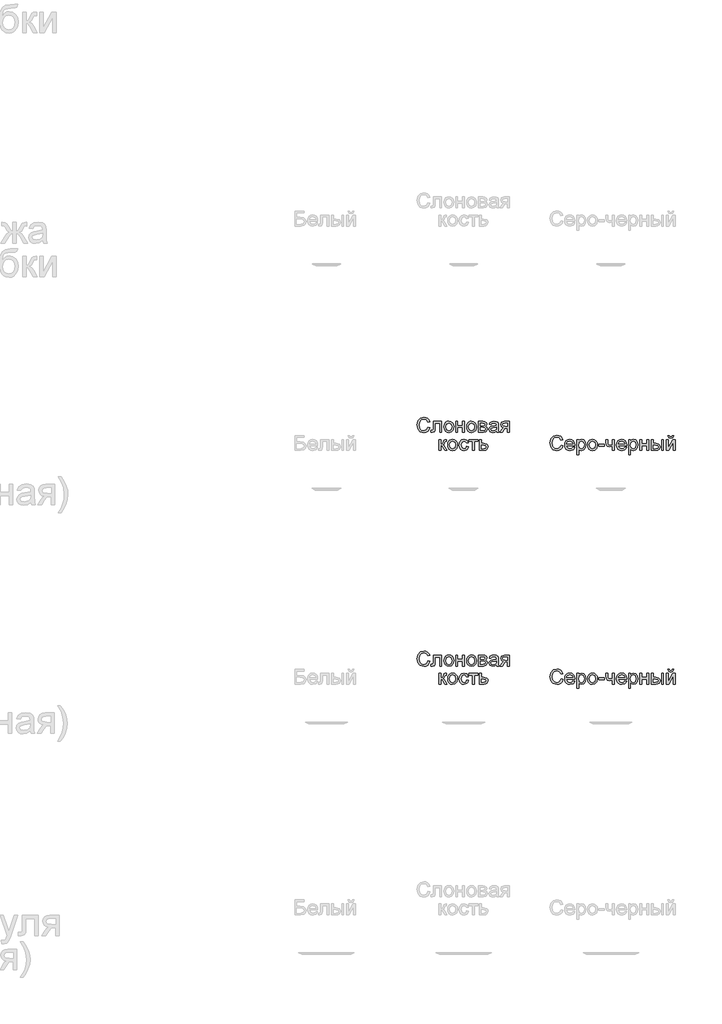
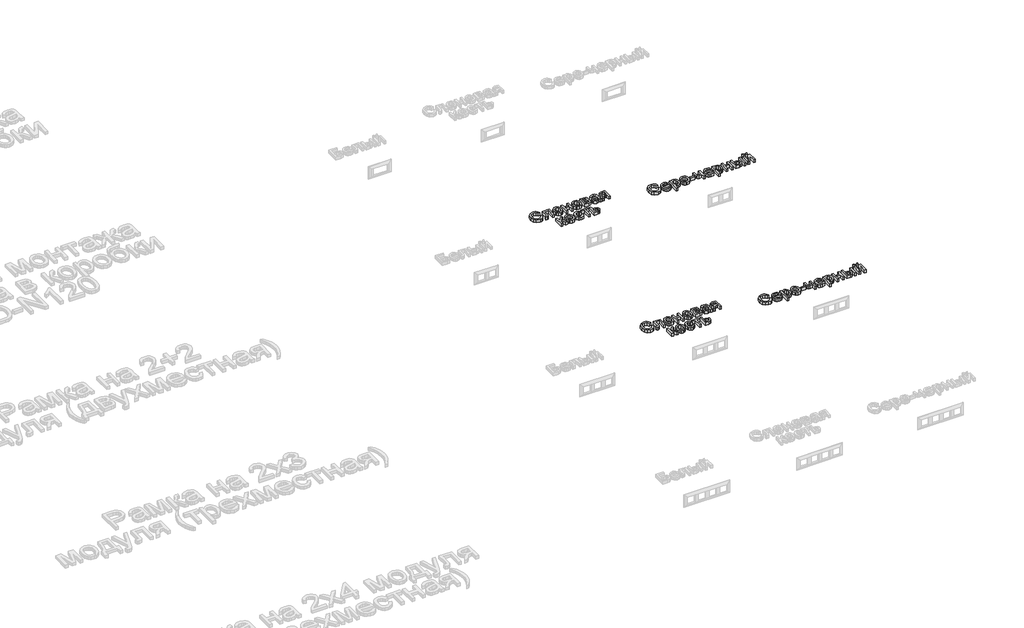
# One storey, part 44 of 47: 4 proxies.
"""IFC4 building model written with IfcOpenShell, lengths in millimetres."""

from ifc_helpers import new_model, si_unit, origin, origin_with_axes, place, context, project, spatial, polyline, outline, extrude, element, save

model = new_model("IFC4")

# Units and contexts
model_context = context("Model", 3, world=origin())
ifc_project = project(units=[si_unit("LENGTHUNIT", "METRE", prefix="MILLI")], contexts=[model_context])

# Site, building, storey
site = spatial("IfcSite", under=ifc_project)
building = spatial("IfcBuilding", under=site)
storey = spatial("IfcBuildingStorey", under=building, Name="Этаж 01", Elevation=0.0)

# Proxies
placement = place(None, origin())
element("IfcBuildingElementProxy", 1, Name="80 мм Arial", ObjectType="80 мм Arial", at=placement, inside=storey, context=model_context, shape_type="SweptSolid", body=[
    extrude(outline(polyline([(554.1498044, 1871.8606862), (564.1954354, 1869.2707969), (559.5601223, 1857.5647918), (552.2858689, 1849.0127617), (542.7307473, 1843.7814797), (531.252829, 1842.0377191), (510.3473215, 1847.3155995), (498.0845883, 1862.5998701), (493.8760183, 1884.0841786), (498.6339588, 1905.9216538), (512.162206, 1920.077753), (531.4686531, 1924.914175), (542.48304, 1923.3494502), (551.5893457, 1918.655276), (558.5030747, 1911.1210527), (562.9397315, 1901.0361809), (552.8941005, 1898.6424954), (544.6535438, 1910.9935203), (531.0762456, 1914.868544), (515.3603268, 1910.5716822), (506.482108, 1899.0349029), (503.9216493, 1884.103799), (506.9529969, 1866.7986299), (516.3903964, 1855.7425497), (530.25219, 1852.0833501), (545.6247523, 1857.0669249), (554.1498044, 1871.8606862)])), origin_with_axes(), (0.0, 0.0, 1.0), 20.0),
    extrude(outline(polyline([(581.7752897, 1902.3115052), (626.9806292, 1902.3115052), (626.9806292, 1843.3522841), (616.9349982, 1843.3522841), (616.9349982, 1892.2658742), (591.8209207, 1892.2658742), (591.8209207, 1864.1106388), (591.1440178, 1851.1219518), (587.4259571, 1845.6380576), (578.63603, 1843.293423), (570.4739548, 1843.8035527), (570.4739548, 1853.339054), (574.9670202, 1853.339054), (579.5091366, 1853.9570957), (581.3240211, 1855.919133), (581.7752897, 1864.6796296), (581.7752897, 1902.3115052)])), origin_with_axes(), (0.0, 0.0, 1.0), 20.0),
    extrude(outline(polyline([(639.537668, 1872.8024641), (641.7106243, 1887.0321396), (648.2294933, 1897.0336248), (656.2836564, 1901.933813), (665.9270698, 1903.5672091), (676.480378, 1901.5781937), (684.9097807, 1895.6111478), (690.4353683, 1886.1369601), (692.2772308, 1873.6265197), (689.0202489, 1855.7523599), (679.5337985, 1845.6380576), (665.9270698, 1842.0377191), (655.2462292, 1844.0193768), (646.8266366, 1849.9643498), (641.3599102, 1859.6371937), (639.537668, 1872.8024641)]), holes=[polyline([(649.583299, 1872.8220844), (654.2333274, 1857.2533184), (665.9270698, 1852.0833501), (677.5815714, 1857.282749), (682.2315998, 1873.1360104), (677.5521408, 1888.3516097), (665.9270698, 1893.521578), (654.2333274, 1888.3712301), (649.583299, 1872.8220844)])]), origin_with_axes(), (0.0, 0.0, 1.0), 20.0),
    extrude(outline(polyline([(703.5785657, 1902.3115052), (713.6241967, 1902.3115052), (713.6241967, 1879.7088354), (739.9939782, 1879.7088354), (739.9939782, 1902.3115052), (750.0396092, 1902.3115052), (750.0396092, 1843.293423), (739.9939782, 1843.293423), (739.9939782, 1869.6632044), (713.6241967, 1869.6632044), (713.6241967, 1843.293423), (703.5785657, 1843.293423), (703.5785657, 1902.3115052)])), origin_with_axes(), (0.0, 0.0, 1.0), 20.0),
    extrude(outline(polyline([(762.5966479, 1872.8024641), (764.7696043, 1887.0321396), (771.2884732, 1897.0336248), (779.3426364, 1901.933813), (788.9860497, 1903.5672091), (799.5393579, 1901.5781937), (807.9687607, 1895.6111478), (813.4943483, 1886.1369601), (815.3362108, 1873.6265197), (812.0792288, 1855.7523599), (802.5927785, 1845.6380576), (788.9860497, 1842.0377191), (778.3052091, 1844.0193768), (769.8856165, 1849.9643498), (764.4188901, 1859.6371937), (762.5966479, 1872.8024641)]), holes=[polyline([(772.642279, 1872.8220844), (777.2923074, 1857.2533184), (788.9860497, 1852.0833501), (800.6405513, 1857.282749), (805.2905798, 1873.1360104), (800.6111208, 1888.3516097), (788.9860497, 1893.521578), (777.2923074, 1888.3712301), (772.642279, 1872.8220844)])]), origin_with_axes(), (0.0, 0.0, 1.0), 20.0),
    extrude(outline(polyline([(826.6375457, 1902.3115052), (848.7693265, 1902.3115052), (860.9045272, 1900.9675096), (867.7324171, 1896.042796), (870.5871814, 1887.4588828), (868.8605885, 1880.4838401), (863.6611897, 1875.5100756), (870.410598, 1870.065422), (873.0985891, 1860.598592), (867.3498198, 1847.5510439), (852.163651, 1843.293423), (826.6375457, 1843.293423), (826.6375457, 1902.3115052)]), holes=[polyline([(836.6831767, 1879.7088354), (846.6110855, 1879.7088354), (854.8025912, 1880.2189651), (858.7855269, 1882.2594839), (860.5415503, 1885.948114), (857.4611518, 1890.8728277), (846.9250114, 1892.2658742), (836.6831767, 1892.2658742), (836.6831767, 1879.7088354)]), polyline([(836.6831767, 1853.339054), (849.004771, 1853.339054), (859.9333188, 1855.1539385), (863.0529581, 1861.4226477), (861.3361754, 1866.2590697), (856.8627304, 1869.0745932), (848.0237523, 1869.6632044), (836.6831767, 1869.6632044), (836.6831767, 1853.339054)])]), origin_with_axes(), (0.0, 0.0, 1.0), 20.0),
    extrude(outline(polyline([(923.3267442, 1850.8276462), (913.585229, 1844.0193768), (902.8234543, 1842.0377191), (888.2357069, 1846.8054698), (883.1442201, 1858.9897214), (885.0670167, 1866.9359725), (890.1192628, 1872.7043622), (897.1531665, 1876.0005849), (905.8449918, 1877.5113536), (923.2678831, 1880.9645393), (923.3267442, 1883.2012618), (920.5602716, 1890.6177628), (909.4551404, 1893.521578), (899.2917872, 1891.5889713), (894.445555, 1884.7316509), (884.399924, 1885.9873548), (888.7458366, 1895.7975413), (897.496523, 1901.5463106), (910.750085, 1903.5672091), (922.9245265, 1901.7817551), (929.8014673, 1897.2984999), (932.8818659, 1890.4804202), (933.3723752, 1881.6904931), (933.3723752, 1869.1923154), (933.8825049, 1851.7399936), (935.883783, 1843.293423), (925.8381519, 1843.293423), (923.3267442, 1850.8276462)]), holes=[polyline([(923.3267442, 1870.9189083), (907.120316, 1867.8385097), (898.4775417, 1866.2100187), (894.5632773, 1863.5612684), (893.1898511, 1859.6960549), (896.181958, 1854.2612115), (904.962075, 1852.0833501), (915.1254282, 1854.4868458), (921.6786328, 1860.3042864), (923.2678831, 1868.0739542), (923.3267442, 1870.9189083)])]), origin_with_axes(), (0.0, 0.0, 1.0), 20.0),
    extrude(outline(polyline([(992.3904574, 1902.3115052), (992.3904574, 1843.293423), (982.3448264, 1843.293423), (982.3448264, 1865.8960928), (976.8707423, 1865.8960928), (969.4150005, 1864.6207685), (962.4105274, 1856.0466655), (954.4054151, 1843.293423), (942.7901543, 1843.293423), (952.875026, 1859.4213696), (961.4295087, 1867.7796486), (949.7357663, 1873.8815846), (945.929414, 1885.261401), (951.1288128, 1897.5829953), (966.177639, 1902.3115052), (992.3904574, 1902.3115052)]), holes=[polyline([(982.3448264, 1892.2658742), (969.1010746, 1892.2658742), (958.3785407, 1889.94086), (955.975045, 1884.4962064), (959.5165223, 1878.0116731), (972.0637509, 1875.9417238), (982.3448264, 1875.9417238), (982.3448264, 1892.2658742)])]), origin_with_axes(), (0.0, 0.0, 1.0), 20.0),
    extrude(outline(polyline([(613.7957385, 1804.7316509), (623.8413695, 1804.7316509), (623.8413695, 1779.6175734), (630.5711575, 1781.4226477), (636.0844823, 1791.9391677), (640.6658395, 1801.0135902), (644.7076363, 1803.9664564), (652.055466, 1804.7316509), (653.9782626, 1804.7316509), (653.9782626, 1794.6271588), (651.2706511, 1794.6860199), (646.3655578, 1793.6265197), (642.9123722, 1787.014454), (638.8607651, 1779.862828), (633.1806671, 1776.3605914), (639.5180476, 1772.4512321), (645.7377059, 1764.2155805), (656.4896703, 1745.7135687), (645.0706132, 1745.7135687), (634.5344729, 1763.823173), (629.2369721, 1771.4849287), (623.8413695, 1773.339054), (623.8413695, 1745.7135687), (613.7957385, 1745.7135687), (613.7957385, 1804.7316509)])), origin_with_axes(), (0.0, 0.0, 1.0), 20.0),
    extrude(outline(polyline([(660.256782, 1775.2226098), (662.4297383, 1789.4522854), (668.9486073, 1799.4537705), (677.0027704, 1804.3539587), (686.6461838, 1805.9873548), (697.1994919, 1803.9983395), (705.6288947, 1798.0312935), (711.1544823, 1788.5571059), (712.9963448, 1776.0466655), (709.7393629, 1758.1725056), (700.2529125, 1748.0582033), (686.6461838, 1744.4578648), (675.9653432, 1746.4395225), (667.5457506, 1752.3844955), (662.0790241, 1762.0573395), (660.256782, 1775.2226098)]), holes=[polyline([(670.302413, 1775.2422302), (674.9524414, 1759.6734641), (686.6461838, 1754.5034958), (698.3006854, 1759.7028947), (702.9507138, 1775.5561561), (698.2712548, 1790.7717555), (686.6461838, 1795.9417238), (674.9524414, 1790.7913758), (670.302413, 1775.2422302)])]), origin_with_axes(), (0.0, 0.0, 1.0), 20.0),
    extrude(outline(polyline([(761.968796, 1767.0605346), (772.014427, 1765.8048307), (769.2136188, 1756.8702033), (763.9504537, 1750.1183424), (748.0187107, 1744.4578648), (737.3329651, 1746.4321649), (728.9771387, 1752.355065), (723.5839886, 1761.9665952), (721.7862719, 1775.0067857), (724.8568603, 1791.693913), (734.2157783, 1802.4164469), (747.8813681, 1805.9873548), (763.1558286, 1801.0822615), (770.7587231, 1787.1517966), (760.7130921, 1785.8960928), (756.0532535, 1793.4205058), (747.9598496, 1795.9417238), (736.3151582, 1790.9777694), (731.831903, 1775.2814709), (736.2170563, 1759.4380197), (747.6851644, 1754.5034958), (757.1519944, 1757.5838944), (761.968796, 1767.0605346)])), origin_with_axes(), (0.0, 0.0, 1.0), 20.0),
    extrude(outline(polyline([(775.7815387, 1804.7316509), (823.498286, 1804.7316509), (823.498286, 1794.6860199), (804.6627278, 1794.6860199), (804.6627278, 1745.7135687), (794.6170968, 1745.7135687), (794.6170968, 1794.6860199), (775.7815387, 1794.6860199), (775.7815387, 1804.7316509)])), origin_with_axes(), (0.0, 0.0, 1.0), 20.0),
    extrude(outline(polyline([(832.2882131, 1804.7316509), (842.3338441, 1804.7316509), (842.3338441, 1783.384685), (853.9098642, 1783.384685), (871.3719963, 1778.3520593), (875.9631636, 1772.365393), (877.4935527, 1764.4706454), (872.2843436, 1751.2170833), (865.5128624, 1747.0894474), (855.6168367, 1745.7135687), (832.2882131, 1745.7135687), (832.2882131, 1804.7316509)]), holes=[polyline([(842.3338441, 1755.7591997), (851.7123825, 1755.7591997), (863.8279628, 1757.8683898), (867.4479217, 1764.451025), (864.7697407, 1770.6314425), (852.9092252, 1773.339054), (842.3338441, 1773.339054), (842.3338441, 1755.7591997)])]), origin_with_axes(), (0.0, 0.0, 1.0), 20.0),
])
element("IfcBuildingElementProxy", 2, Name="80 мм Arial", ObjectType="80 мм Arial", at=placement, inside=storey, context=model_context, shape_type="SweptSolid", body=[
    extrude(outline(polyline([(1272.5444141, 1774.2808319), (1282.5900451, 1771.6909426), (1277.954732, 1759.9849376), (1270.6804787, 1751.4329074), (1261.125357, 1746.2016255), (1249.6474387, 1744.4578648), (1228.7419312, 1749.7357452), (1216.4791981, 1765.0200158), (1212.270628, 1786.5043243), (1217.0285685, 1808.3417996), (1230.5568157, 1822.4978987), (1249.8632628, 1827.3343207), (1260.8776498, 1825.7695959), (1269.9839554, 1821.0754217), (1276.8976844, 1813.5411984), (1281.3343413, 1803.4563267), (1271.2887102, 1801.0626411), (1263.0481536, 1813.413666), (1249.4708554, 1817.2886897), (1233.7549366, 1812.991828), (1224.8767177, 1801.4550486), (1222.3162591, 1786.5239447), (1225.3476067, 1769.2187756), (1234.7850061, 1758.1626954), (1248.6467997, 1754.5034958), (1264.019362, 1759.4870706), (1272.5444141, 1774.2808319)])), origin_with_axes(), (0.0, 0.0, 1.0), 20.0),
    extrude(outline(polyline([(1336.4675896, 1763.293423), (1346.3170169, 1762.0377191), (1337.1052517, 1749.0686525), (1319.9472355, 1744.4578648), (1308.1602964, 1746.4468801), (1299.0907789, 1752.4139261), (1293.3076739, 1761.9715003), (1291.3799723, 1774.7321005), (1293.3272943, 1787.9218963), (1299.1692604, 1797.7860388), (1308.1161505, 1803.9370258), (1319.3782447, 1805.9873548), (1330.2896246, 1803.9419309), (1339.0084279, 1797.8056592), (1344.7253141, 1787.961137), (1346.6309429, 1774.7909616), (1346.5720817, 1772.0833501), (1301.4256033, 1772.0833501), (1307.2038032, 1759.035802), (1320.1434392, 1754.5034958), (1329.9928665, 1756.6028758), (1336.4675896, 1763.293423)]), holes=[polyline([(1301.4256033, 1782.1289811), (1336.5853118, 1782.1289811), (1332.5631354, 1791.2328342), (1319.3390039, 1795.9417238), (1306.9683587, 1792.1844223), (1301.4256033, 1782.1289811)])]), origin_with_axes(), (0.0, 0.0, 1.0), 20.0),
    extrude(outline(polyline([(1356.6765739, 1723.1108989), (1356.6765739, 1804.7316509), (1366.7222049, 1804.7316509), (1366.7222049, 1794.8822236), (1373.667817, 1803.211072), (1383.0463553, 1805.9873548), (1395.7799774, 1802.1025209), (1404.0990156, 1791.1543527), (1406.904729, 1775.6738784), (1403.7360387, 1759.3987789), (1394.5340837, 1748.3132681), (1381.8298922, 1744.4578648), (1373.089016, 1747.0379439), (1366.7222049, 1753.5617179), (1366.7222049, 1723.1108989), (1356.6765739, 1723.1108989)]), holes=[polyline([(1366.7222049, 1774.7517208), (1371.0681175, 1759.4478298), (1381.6140681, 1754.5034958), (1392.3758427, 1759.6244132), (1396.8590979, 1775.497295), (1392.4837547, 1790.8404268), (1382.0260959, 1795.9417238), (1371.3624231, 1790.5166906), (1366.7222049, 1774.7517208)])]), origin_with_axes(), (0.0, 0.0, 1.0), 20.0),
    extrude(outline(polyline([(1415.6946561, 1775.2226098), (1417.8676124, 1789.4522854), (1424.3864814, 1799.4537705), (1432.4406445, 1804.3539587), (1442.0840579, 1805.9873548), (1452.637366, 1803.9983395), (1461.0667688, 1798.0312935), (1466.5923564, 1788.5571059), (1468.4342189, 1776.0466655), (1465.177237, 1758.1725056), (1455.6907866, 1748.0582033), (1442.0840579, 1744.4578648), (1431.4032173, 1746.4395225), (1422.9836247, 1752.3844955), (1417.5168982, 1762.0573395), (1415.6946561, 1775.2226098)]), holes=[polyline([(1425.7402871, 1775.2422302), (1430.3903155, 1759.6734641), (1442.0840579, 1754.5034958), (1453.7385595, 1759.7028947), (1458.3885879, 1775.5561561), (1453.7091289, 1790.7717555), (1442.0840579, 1795.9417238), (1430.3903155, 1790.7913758), (1425.7402871, 1775.2422302)])]), origin_with_axes(), (0.0, 0.0, 1.0), 20.0),
    extrude(outline(polyline([(1474.7127383, 1769.5719424), (1474.7127383, 1779.6175734), (1506.1053352, 1779.6175734), (1506.1053352, 1769.5719424), (1474.7127383, 1769.5719424)])), origin_with_axes(), (0.0, 0.0, 1.0), 20.0),
    extrude(outline(polyline([(1513.6395585, 1804.7316509), (1523.6851895, 1804.7316509), (1523.6851895, 1793.4106956), (1524.499435, 1782.7960738), (1528.4136994, 1777.0473045), (1536.1833671, 1774.5947579), (1550.0549709, 1777.6359157), (1550.0549709, 1804.7316509), (1560.1006019, 1804.7316509), (1560.1006019, 1745.7135687), (1550.0549709, 1745.7135687), (1550.0549709, 1768.0023125), (1533.495376, 1764.5491268), (1522.1057495, 1768.1494653), (1515.4053921, 1776.968823), (1513.6395585, 1788.4467413), (1513.6395585, 1804.7316509)])), origin_with_axes(), (0.0, 0.0, 1.0), 20.0),
    extrude(outline(polyline([(1616.4895541, 1763.293423), (1626.3389814, 1762.0377191), (1617.1272163, 1749.0686525), (1599.9692, 1744.4578648), (1588.1822609, 1746.4468801), (1579.1127434, 1752.4139261), (1573.3296385, 1761.9715003), (1571.4019368, 1774.7321005), (1573.3492588, 1787.9218963), (1579.1912249, 1797.7860388), (1588.1381151, 1803.9370258), (1599.4002092, 1805.9873548), (1610.3115892, 1803.9419309), (1619.0303925, 1797.8056592), (1624.7472787, 1787.961137), (1626.6529074, 1774.7909616), (1626.5940463, 1772.0833501), (1581.4475678, 1772.0833501), (1587.2257677, 1759.035802), (1600.1654038, 1754.5034958), (1610.014831, 1756.6028758), (1616.4895541, 1763.293423)]), holes=[polyline([(1581.4475678, 1782.1289811), (1616.6072764, 1782.1289811), (1612.5850999, 1791.2328342), (1599.3609685, 1795.9417238), (1586.9903232, 1792.1844223), (1581.4475678, 1782.1289811)])]), origin_with_axes(), (0.0, 0.0, 1.0), 20.0),
    extrude(outline(polyline([(1636.6985384, 1723.1108989), (1636.6985384, 1804.7316509), (1646.7441694, 1804.7316509), (1646.7441694, 1794.8822236), (1653.6897815, 1803.211072), (1663.0683198, 1805.9873548), (1675.801942, 1802.1025209), (1684.1209801, 1791.1543527), (1686.9266935, 1775.6738784), (1683.7580032, 1759.3987789), (1674.5560483, 1748.3132681), (1661.8518567, 1744.4578648), (1653.1109805, 1747.0379439), (1646.7441694, 1753.5617179), (1646.7441694, 1723.1108989), (1636.6985384, 1723.1108989)]), holes=[polyline([(1646.7441694, 1774.7517208), (1651.0900821, 1759.4478298), (1661.6360326, 1754.5034958), (1672.3978072, 1759.6244132), (1676.8810625, 1775.497295), (1672.5057193, 1790.8404268), (1662.0480604, 1795.9417238), (1651.3843877, 1790.5166906), (1646.7441694, 1774.7517208)])]), origin_with_axes(), (0.0, 0.0, 1.0), 20.0),
    extrude(outline(polyline([(1698.2280284, 1804.7316509), (1708.2736594, 1804.7316509), (1708.2736594, 1782.1289811), (1734.6434408, 1782.1289811), (1734.6434408, 1804.7316509), (1744.6890718, 1804.7316509), (1744.6890718, 1745.7135687), (1734.6434408, 1745.7135687), (1734.6434408, 1772.0833501), (1708.2736594, 1772.0833501), (1708.2736594, 1745.7135687), (1698.2280284, 1745.7135687), (1698.2280284, 1804.7316509)])), origin_with_axes(), (0.0, 0.0, 1.0), 20.0),
    extrude(outline(polyline([(1815.0084889, 1804.7316509), (1825.0541199, 1804.7316509), (1825.0541199, 1745.7135687), (1815.0084889, 1745.7135687), (1815.0084889, 1804.7316509)])), origin_with_axes(), (0.0, 0.0, 1.0), 20.0),
    extrude(outline(polyline([(1759.7575184, 1804.7316509), (1769.8031494, 1804.7316509), (1769.8031494, 1783.384685), (1782.2228455, 1783.384685), (1800.9112509, 1778.3520593), (1805.833512, 1772.365393), (1807.4742657, 1764.4706454), (1801.970751, 1751.2170833), (1794.8215776, 1747.0894474), (1784.3810866, 1745.7135687), (1759.7575184, 1745.7135687), (1759.7575184, 1804.7316509)]), holes=[polyline([(1769.8031494, 1755.7591997), (1780.1234656, 1755.7591997), (1793.4456989, 1757.8683898), (1797.4286347, 1764.451025), (1794.4757685, 1770.6314425), (1781.4380306, 1773.339054), (1769.8031494, 1773.339054), (1769.8031494, 1755.7591997)])]), origin_with_axes(), (0.0, 0.0, 1.0), 20.0),
    extrude(outline(polyline([(1840.1225665, 1804.7316509), (1850.1681975, 1804.7316509), (1850.1681975, 1759.7225151), (1874.8506268, 1804.7316509), (1887.8393138, 1804.7316509), (1887.8393138, 1745.7135687), (1877.7936828, 1745.7135687), (1877.7936828, 1790.4480193), (1853.2682164, 1745.7135687), (1840.1225665, 1745.7135687), (1840.1225665, 1804.7316509)])), origin_with_axes(), (0.0, 0.0, 1.0), 20.0),
    extrude(outline(polyline([(1872.7708673, 1826.0786168), (1880.3050905, 1826.0786168), (1875.4294278, 1814.9048143), (1864.6087921, 1811.0101703), (1852.8954293, 1814.8753838), (1847.6567897, 1826.0786168), (1855.191013, 1826.0786168), (1858.0163467, 1820.4181392), (1863.7062549, 1818.5443936), (1869.9455335, 1820.3592781), (1872.7708673, 1826.0786168)])), origin_with_axes(), (0.0, 0.0, 1.0), 20.0),
])
element("IfcBuildingElementProxy", 3, Name="80 мм Arial", ObjectType="80 мм Arial", at=placement, inside=storey, context=model_context, shape_type="SweptSolid", body=[
    extrude(outline(polyline([(554.1498044, 610.5439649), (564.1954354, 607.9540756), (559.5601223, 596.2480705), (552.2858689, 587.6960404), (542.7307473, 582.4647584), (531.252829, 580.7209978), (510.3473215, 585.9988781), (498.0845883, 601.2831488), (493.8760183, 622.7674573), (498.6339588, 644.6049325), (512.162206, 658.7610317), (531.4686531, 663.5974537), (542.48304, 662.0327289), (551.5893457, 657.3385547), (558.5030747, 649.8043314), (562.9397315, 639.7194596), (552.8941005, 637.3257741), (544.6535438, 649.676799), (531.0762456, 653.5518227), (515.3603268, 649.2549609), (506.482108, 637.7181816), (503.9216493, 622.7870777), (506.9529969, 605.4819086), (516.3903964, 594.4258284), (530.25219, 590.7666288), (545.6247523, 595.7502036), (554.1498044, 610.5439649)])), origin_with_axes(), (0.0, 0.0, 1.0), 20.0),
    extrude(outline(polyline([(581.7752897, 640.9947839), (626.9806292, 640.9947839), (626.9806292, 582.0355628), (616.9349982, 582.0355628), (616.9349982, 630.9491529), (591.8209207, 630.9491529), (591.8209207, 602.7939175), (591.1440178, 589.8052305), (587.4259571, 584.3213363), (578.63603, 581.9767017), (570.4739548, 582.4868314), (570.4739548, 592.0223327), (574.9670202, 592.0223327), (579.5091366, 592.6403744), (581.3240211, 594.6024117), (581.7752897, 603.3629083), (581.7752897, 640.9947839)])), origin_with_axes(), (0.0, 0.0, 1.0), 20.0),
    extrude(outline(polyline([(639.537668, 611.4857428), (641.7106243, 625.7154183), (648.2294933, 635.7169035), (656.2836564, 640.6170917), (665.9270698, 642.2504878), (676.480378, 640.2614724), (684.9097807, 634.2944265), (690.4353683, 624.8202388), (692.2772308, 612.3097984), (689.0202489, 594.4356386), (679.5337985, 584.3213363), (665.9270698, 580.7209978), (655.2462292, 582.7026555), (646.8266366, 588.6476285), (641.3599102, 598.3204724), (639.537668, 611.4857428)]), holes=[polyline([(649.583299, 611.5053631), (654.2333274, 595.9365971), (665.9270698, 590.7666288), (677.5815714, 595.9660277), (682.2315998, 611.8192891), (677.5521408, 627.0348884), (665.9270698, 632.2048567), (654.2333274, 627.0545088), (649.583299, 611.5053631)])]), origin_with_axes(), (0.0, 0.0, 1.0), 20.0),
    extrude(outline(polyline([(703.5785657, 640.9947839), (713.6241967, 640.9947839), (713.6241967, 618.3921141), (739.9939782, 618.3921141), (739.9939782, 640.9947839), (750.0396092, 640.9947839), (750.0396092, 581.9767017), (739.9939782, 581.9767017), (739.9939782, 608.3464831), (713.6241967, 608.3464831), (713.6241967, 581.9767017), (703.5785657, 581.9767017), (703.5785657, 640.9947839)])), origin_with_axes(), (0.0, 0.0, 1.0), 20.0),
    extrude(outline(polyline([(762.5966479, 611.4857428), (764.7696043, 625.7154183), (771.2884732, 635.7169035), (779.3426364, 640.6170917), (788.9860497, 642.2504878), (799.5393579, 640.2614724), (807.9687607, 634.2944265), (813.4943483, 624.8202388), (815.3362108, 612.3097984), (812.0792288, 594.4356386), (802.5927785, 584.3213363), (788.9860497, 580.7209978), (778.3052091, 582.7026555), (769.8856165, 588.6476285), (764.4188901, 598.3204724), (762.5966479, 611.4857428)]), holes=[polyline([(772.642279, 611.5053631), (777.2923074, 595.9365971), (788.9860497, 590.7666288), (800.6405513, 595.9660277), (805.2905798, 611.8192891), (800.6111208, 627.0348884), (788.9860497, 632.2048567), (777.2923074, 627.0545088), (772.642279, 611.5053631)])]), origin_with_axes(), (0.0, 0.0, 1.0), 20.0),
    extrude(outline(polyline([(826.6375457, 640.9947839), (848.7693265, 640.9947839), (860.9045272, 639.6507883), (867.7324171, 634.7260747), (870.5871814, 626.1421615), (868.8605885, 619.1671188), (863.6611897, 614.1933543), (870.410598, 608.7487007), (873.0985891, 599.2818707), (867.3498198, 586.2343226), (852.163651, 581.9767017), (826.6375457, 581.9767017), (826.6375457, 640.9947839)]), holes=[polyline([(836.6831767, 618.3921141), (846.6110855, 618.3921141), (854.8025912, 618.9022438), (858.7855269, 620.9427626), (860.5415503, 624.6313927), (857.4611518, 629.5561064), (846.9250114, 630.9491529), (836.6831767, 630.9491529), (836.6831767, 618.3921141)]), polyline([(836.6831767, 592.0223327), (849.004771, 592.0223327), (859.9333188, 593.8372172), (863.0529581, 600.1059264), (861.3361754, 604.9423484), (856.8627304, 607.7578719), (848.0237523, 608.3464831), (836.6831767, 608.3464831), (836.6831767, 592.0223327)])]), origin_with_axes(), (0.0, 0.0, 1.0), 20.0),
    extrude(outline(polyline([(923.3267442, 589.5109249), (913.585229, 582.7026555), (902.8234543, 580.7209978), (888.2357069, 585.4887484), (883.1442201, 597.6730001), (885.0670167, 605.6192512), (890.1192628, 611.3876409), (897.1531665, 614.6838636), (905.8449918, 616.1946323), (923.2678831, 619.647818), (923.3267442, 621.8845405), (920.5602716, 629.3010415), (909.4551404, 632.2048567), (899.2917872, 630.27225), (894.445555, 623.4149296), (884.399924, 624.6706335), (888.7458366, 634.48082), (897.496523, 640.2295893), (910.750085, 642.2504878), (922.9245265, 640.4650338), (929.8014673, 635.9817786), (932.8818659, 629.1636989), (933.3723752, 620.3737718), (933.3723752, 607.8755941), (933.8825049, 590.4232723), (935.883783, 581.9767017), (925.8381519, 581.9767017), (923.3267442, 589.5109249)]), holes=[polyline([(923.3267442, 609.602187), (907.120316, 606.5217884), (898.4775417, 604.8932974), (894.5632773, 602.2445471), (893.1898511, 598.3793336), (896.181958, 592.9444902), (904.962075, 590.7666288), (915.1254282, 593.1701245), (921.6786328, 598.9875651), (923.2678831, 606.7572329), (923.3267442, 609.602187)])]), origin_with_axes(), (0.0, 0.0, 1.0), 20.0),
    extrude(outline(polyline([(992.3904574, 640.9947839), (992.3904574, 581.9767017), (982.3448264, 581.9767017), (982.3448264, 604.5793715), (976.8707423, 604.5793715), (969.4150005, 603.3040472), (962.4105274, 594.7299442), (954.4054151, 581.9767017), (942.7901543, 581.9767017), (952.875026, 598.1046483), (961.4295087, 606.4629273), (949.7357663, 612.5648633), (945.929414, 623.9446797), (951.1288128, 636.266274), (966.177639, 640.9947839), (992.3904574, 640.9947839)]), holes=[polyline([(982.3448264, 630.9491529), (969.1010746, 630.9491529), (958.3785407, 628.6241387), (955.975045, 623.1794851), (959.5165223, 616.6949518), (972.0637509, 614.6250025), (982.3448264, 614.6250025), (982.3448264, 630.9491529)])]), origin_with_axes(), (0.0, 0.0, 1.0), 20.0),
    extrude(outline(polyline([(613.7957385, 543.4149296), (623.8413695, 543.4149296), (623.8413695, 518.3008521), (630.5711575, 520.1059264), (636.0844823, 530.6224464), (640.6658395, 539.6968689), (644.7076363, 542.6497351), (652.055466, 543.4149296), (653.9782626, 543.4149296), (653.9782626, 533.3104375), (651.2706511, 533.3692986), (646.3655578, 532.3097984), (642.9123722, 525.6977327), (638.8607651, 518.5461067), (633.1806671, 515.0438701), (639.5180476, 511.1345108), (645.7377059, 502.8988592), (656.4896703, 484.3968474), (645.0706132, 484.3968474), (634.5344729, 502.5064517), (629.2369721, 510.1682074), (623.8413695, 512.0223327), (623.8413695, 484.3968474), (613.7957385, 484.3968474), (613.7957385, 543.4149296)])), origin_with_axes(), (0.0, 0.0, 1.0), 20.0),
    extrude(outline(polyline([(660.256782, 513.9058885), (662.4297383, 528.1355641), (668.9486073, 538.1370492), (677.0027704, 543.0372374), (686.6461838, 544.6706335), (697.1994919, 542.6816182), (705.6288947, 536.7145722), (711.1544823, 527.2403846), (712.9963448, 514.7299442), (709.7393629, 496.8557843), (700.2529125, 486.741482), (686.6461838, 483.1411435), (675.9653432, 485.1228012), (667.5457506, 491.0677742), (662.0790241, 500.7406182), (660.256782, 513.9058885)]), holes=[polyline([(670.302413, 513.9255089), (674.9524414, 498.3567428), (686.6461838, 493.1867745), (698.3006854, 498.3861734), (702.9507138, 514.2394348), (698.2712548, 529.4550342), (686.6461838, 534.6250025), (674.9524414, 529.4746545), (670.302413, 513.9255089)])]), origin_with_axes(), (0.0, 0.0, 1.0), 20.0),
    extrude(outline(polyline([(761.968796, 505.7438133), (772.014427, 504.4881094), (769.2136188, 495.553482), (763.9504537, 488.8016211), (748.0187107, 483.1411435), (737.3329651, 485.1154436), (728.9771387, 491.0383437), (723.5839886, 500.6498739), (721.7862719, 513.6900644), (724.8568603, 530.3771917), (734.2157783, 541.0997256), (747.8813681, 544.6706335), (763.1558286, 539.7655402), (770.7587231, 525.8350753), (760.7130921, 524.5793715), (756.0532535, 532.1037845), (747.9598496, 534.6250025), (736.3151582, 529.6610481), (731.831903, 513.9647496), (736.2170563, 498.1212984), (747.6851644, 493.1867745), (757.1519944, 496.2671731), (761.968796, 505.7438133)])), origin_with_axes(), (0.0, 0.0, 1.0), 20.0),
    extrude(outline(polyline([(775.7815387, 543.4149296), (823.498286, 543.4149296), (823.498286, 533.3692986), (804.6627278, 533.3692986), (804.6627278, 484.3968474), (794.6170968, 484.3968474), (794.6170968, 533.3692986), (775.7815387, 533.3692986), (775.7815387, 543.4149296)])), origin_with_axes(), (0.0, 0.0, 1.0), 20.0),
    extrude(outline(polyline([(832.2882131, 543.4149296), (842.3338441, 543.4149296), (842.3338441, 522.0679637), (853.9098642, 522.0679637), (871.3719963, 517.035338), (875.9631636, 511.0486717), (877.4935527, 503.1539241), (872.2843436, 489.900362), (865.5128624, 485.7727261), (855.6168367, 484.3968474), (832.2882131, 484.3968474), (832.2882131, 543.4149296)]), holes=[polyline([(842.3338441, 494.4424784), (851.7123825, 494.4424784), (863.8279628, 496.5516685), (867.4479217, 503.1343037), (864.7697407, 509.3147212), (852.9092252, 512.0223327), (842.3338441, 512.0223327), (842.3338441, 494.4424784)])]), origin_with_axes(), (0.0, 0.0, 1.0), 20.0),
])
element("IfcBuildingElementProxy", 4, Name="80 мм Arial", ObjectType="80 мм Arial", at=placement, inside=storey, context=model_context, shape_type="SweptSolid", body=[
    extrude(outline(polyline([(1272.5444141, 512.9641106), (1282.5900451, 510.3742213), (1277.954732, 498.6682163), (1270.6804787, 490.1161861), (1261.125357, 484.8849042), (1249.6474387, 483.1411435), (1228.7419312, 488.4190239), (1216.4791981, 503.7032945), (1212.270628, 525.187603), (1217.0285685, 547.0250783), (1230.5568157, 561.1811774), (1249.8632628, 566.0175994), (1260.8776498, 564.4528746), (1269.9839554, 559.7587004), (1276.8976844, 552.2244771), (1281.3343413, 542.1396054), (1271.2887102, 539.7459198), (1263.0481536, 552.0969447), (1249.4708554, 555.9719684), (1233.7549366, 551.6751067), (1224.8767177, 540.1383273), (1222.3162591, 525.2072234), (1225.3476067, 507.9020543), (1234.7850061, 496.8459741), (1248.6467997, 493.1867745), (1264.019362, 498.1703493), (1272.5444141, 512.9641106)])), origin_with_axes(), (0.0, 0.0, 1.0), 20.0),
    extrude(outline(polyline([(1336.4675896, 501.9767017), (1346.3170169, 500.7209978), (1337.1052517, 487.7519312), (1319.9472355, 483.1411435), (1308.1602964, 485.1301588), (1299.0907789, 491.0972048), (1293.3076739, 500.654779), (1291.3799723, 513.4153792), (1293.3272943, 526.605175), (1299.1692604, 536.4693175), (1308.1161505, 542.6203045), (1319.3782447, 544.6706335), (1330.2896246, 542.6252096), (1339.0084279, 536.4889379), (1344.7253141, 526.6444157), (1346.6309429, 513.4742403), (1346.5720817, 510.7666288), (1301.4256033, 510.7666288), (1307.2038032, 497.7190807), (1320.1434392, 493.1867745), (1329.9928665, 495.2861544), (1336.4675896, 501.9767017)]), holes=[polyline([(1301.4256033, 520.8122598), (1336.5853118, 520.8122598), (1332.5631354, 529.9161129), (1319.3390039, 534.6250025), (1306.9683587, 530.867701), (1301.4256033, 520.8122598)])]), origin_with_axes(), (0.0, 0.0, 1.0), 20.0),
    extrude(outline(polyline([(1356.6765739, 461.7941776), (1356.6765739, 543.4149296), (1366.7222049, 543.4149296), (1366.7222049, 533.5655023), (1373.667817, 541.8943507), (1383.0463553, 544.6706335), (1395.7799774, 540.7857996), (1404.0990156, 529.8376314), (1406.904729, 514.3571571), (1403.7360387, 498.0820576), (1394.5340837, 486.9965468), (1381.8298922, 483.1411435), (1373.089016, 485.7212226), (1366.7222049, 492.2449966), (1366.7222049, 461.7941776), (1356.6765739, 461.7941776)]), holes=[polyline([(1366.7222049, 513.4349995), (1371.0681175, 498.1311085), (1381.6140681, 493.1867745), (1392.3758427, 498.3076919), (1396.8590979, 514.1805737), (1392.4837547, 529.5237055), (1382.0260959, 534.6250025), (1371.3624231, 529.1999693), (1366.7222049, 513.4349995)])]), origin_with_axes(), (0.0, 0.0, 1.0), 20.0),
    extrude(outline(polyline([(1415.6946561, 513.9058885), (1417.8676124, 528.1355641), (1424.3864814, 538.1370492), (1432.4406445, 543.0372374), (1442.0840579, 544.6706335), (1452.637366, 542.6816182), (1461.0667688, 536.7145722), (1466.5923564, 527.2403846), (1468.4342189, 514.7299442), (1465.177237, 496.8557843), (1455.6907866, 486.741482), (1442.0840579, 483.1411435), (1431.4032173, 485.1228012), (1422.9836247, 491.0677742), (1417.5168982, 500.7406182), (1415.6946561, 513.9058885)]), holes=[polyline([(1425.7402871, 513.9255089), (1430.3903155, 498.3567428), (1442.0840579, 493.1867745), (1453.7385595, 498.3861734), (1458.3885879, 514.2394348), (1453.7091289, 529.4550342), (1442.0840579, 534.6250025), (1430.3903155, 529.4746545), (1425.7402871, 513.9255089)])]), origin_with_axes(), (0.0, 0.0, 1.0), 20.0),
    extrude(outline(polyline([(1474.7127383, 508.2552211), (1474.7127383, 518.3008521), (1506.1053352, 518.3008521), (1506.1053352, 508.2552211), (1474.7127383, 508.2552211)])), origin_with_axes(), (0.0, 0.0, 1.0), 20.0),
    extrude(outline(polyline([(1513.6395585, 543.4149296), (1523.6851895, 543.4149296), (1523.6851895, 532.0939743), (1524.499435, 521.4793525), (1528.4136994, 515.7305832), (1536.1833671, 513.2780366), (1550.0549709, 516.3191944), (1550.0549709, 543.4149296), (1560.1006019, 543.4149296), (1560.1006019, 484.3968474), (1550.0549709, 484.3968474), (1550.0549709, 506.6855912), (1533.495376, 503.2324055), (1522.1057495, 506.832744), (1515.4053921, 515.6521017), (1513.6395585, 527.13002), (1513.6395585, 543.4149296)])), origin_with_axes(), (0.0, 0.0, 1.0), 20.0),
    extrude(outline(polyline([(1616.4895541, 501.9767017), (1626.3389814, 500.7209978), (1617.1272163, 487.7519312), (1599.9692, 483.1411435), (1588.1822609, 485.1301588), (1579.1127434, 491.0972048), (1573.3296385, 500.654779), (1571.4019368, 513.4153792), (1573.3492588, 526.605175), (1579.1912249, 536.4693175), (1588.1381151, 542.6203045), (1599.4002092, 544.6706335), (1610.3115892, 542.6252096), (1619.0303925, 536.4889379), (1624.7472787, 526.6444157), (1626.6529074, 513.4742403), (1626.5940463, 510.7666288), (1581.4475678, 510.7666288), (1587.2257677, 497.7190807), (1600.1654038, 493.1867745), (1610.014831, 495.2861544), (1616.4895541, 501.9767017)]), holes=[polyline([(1581.4475678, 520.8122598), (1616.6072764, 520.8122598), (1612.5850999, 529.9161129), (1599.3609685, 534.6250025), (1586.9903232, 530.867701), (1581.4475678, 520.8122598)])]), origin_with_axes(), (0.0, 0.0, 1.0), 20.0),
    extrude(outline(polyline([(1636.6985384, 461.7941776), (1636.6985384, 543.4149296), (1646.7441694, 543.4149296), (1646.7441694, 533.5655023), (1653.6897815, 541.8943507), (1663.0683198, 544.6706335), (1675.801942, 540.7857996), (1684.1209801, 529.8376314), (1686.9266935, 514.3571571), (1683.7580032, 498.0820576), (1674.5560483, 486.9965468), (1661.8518567, 483.1411435), (1653.1109805, 485.7212226), (1646.7441694, 492.2449966), (1646.7441694, 461.7941776), (1636.6985384, 461.7941776)]), holes=[polyline([(1646.7441694, 513.4349995), (1651.0900821, 498.1311085), (1661.6360326, 493.1867745), (1672.3978072, 498.3076919), (1676.8810625, 514.1805737), (1672.5057193, 529.5237055), (1662.0480604, 534.6250025), (1651.3843877, 529.1999693), (1646.7441694, 513.4349995)])]), origin_with_axes(), (0.0, 0.0, 1.0), 20.0),
    extrude(outline(polyline([(1698.2280284, 543.4149296), (1708.2736594, 543.4149296), (1708.2736594, 520.8122598), (1734.6434408, 520.8122598), (1734.6434408, 543.4149296), (1744.6890718, 543.4149296), (1744.6890718, 484.3968474), (1734.6434408, 484.3968474), (1734.6434408, 510.7666288), (1708.2736594, 510.7666288), (1708.2736594, 484.3968474), (1698.2280284, 484.3968474), (1698.2280284, 543.4149296)])), origin_with_axes(), (0.0, 0.0, 1.0), 20.0),
    extrude(outline(polyline([(1815.0084889, 543.4149296), (1825.0541199, 543.4149296), (1825.0541199, 484.3968474), (1815.0084889, 484.3968474), (1815.0084889, 543.4149296)])), origin_with_axes(), (0.0, 0.0, 1.0), 20.0),
    extrude(outline(polyline([(1759.7575184, 543.4149296), (1769.8031494, 543.4149296), (1769.8031494, 522.0679637), (1782.2228455, 522.0679637), (1800.9112509, 517.035338), (1805.833512, 511.0486717), (1807.4742657, 503.1539241), (1801.970751, 489.900362), (1794.8215776, 485.7727261), (1784.3810866, 484.3968474), (1759.7575184, 484.3968474), (1759.7575184, 543.4149296)]), holes=[polyline([(1769.8031494, 494.4424784), (1780.1234656, 494.4424784), (1793.4456989, 496.5516685), (1797.4286347, 503.1343037), (1794.4757685, 509.3147212), (1781.4380306, 512.0223327), (1769.8031494, 512.0223327), (1769.8031494, 494.4424784)])]), origin_with_axes(), (0.0, 0.0, 1.0), 20.0),
    extrude(outline(polyline([(1840.1225665, 543.4149296), (1850.1681975, 543.4149296), (1850.1681975, 498.4057938), (1874.8506268, 543.4149296), (1887.8393138, 543.4149296), (1887.8393138, 484.3968474), (1877.7936828, 484.3968474), (1877.7936828, 529.131298), (1853.2682164, 484.3968474), (1840.1225665, 484.3968474), (1840.1225665, 543.4149296)])), origin_with_axes(), (0.0, 0.0, 1.0), 20.0),
    extrude(outline(polyline([(1872.7708673, 564.7618955), (1880.3050905, 564.7618955), (1875.4294278, 553.588093), (1864.6087921, 549.693449), (1852.8954293, 553.5586625), (1847.6567897, 564.7618955), (1855.191013, 564.7618955), (1858.0163467, 559.1014179), (1863.7062549, 557.2276723), (1869.9455335, 559.0425568), (1872.7708673, 564.7618955)])), origin_with_axes(), (0.0, 0.0, 1.0), 20.0),
])

save(model, "model.ifc")
